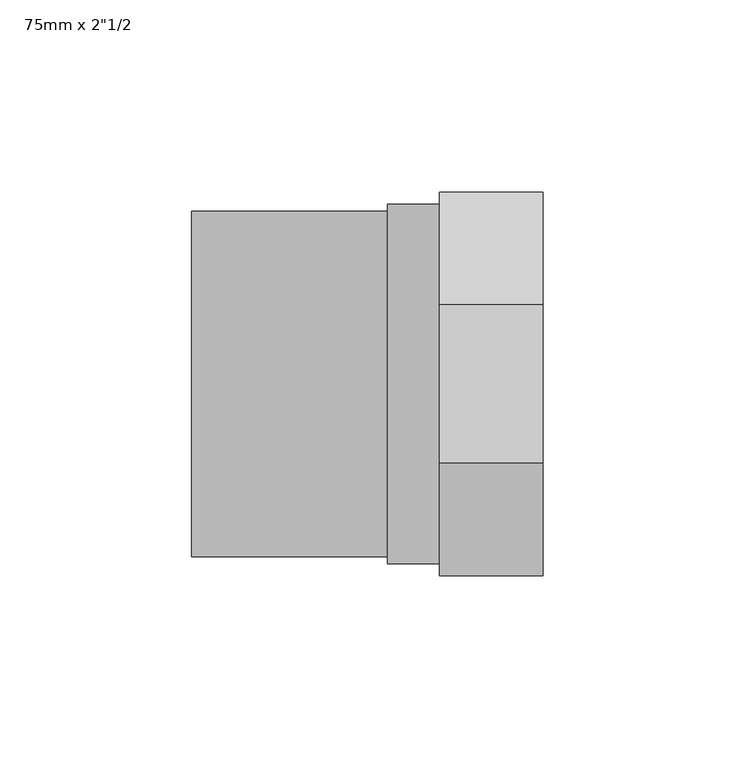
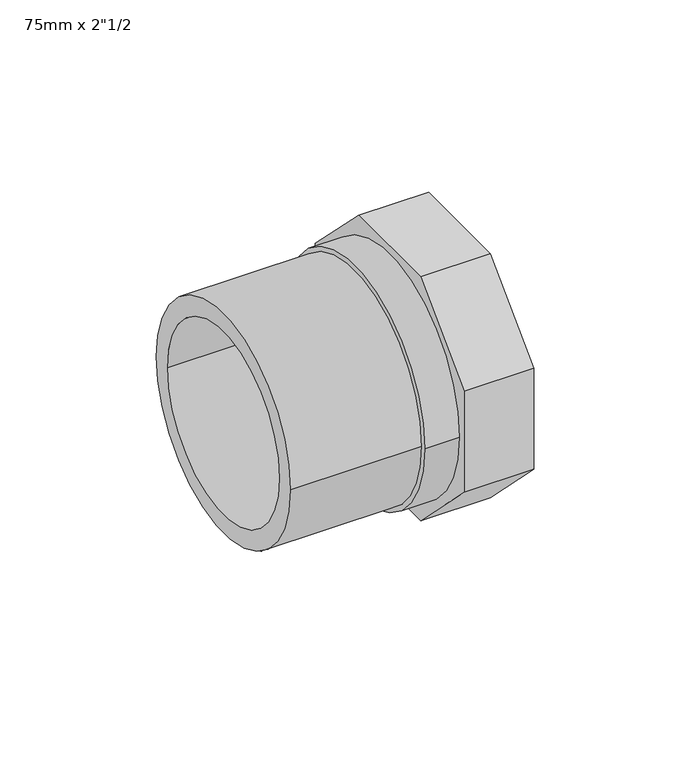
"""IFC4 building model written with IfcOpenShell, lengths in millimetres: pipe fitting geometry."""

import ifcopenshell
import ifcopenshell.guid

model = None  # the IFC model being written
_history = None  # IfcOwnerHistory: only IFC2X3 demands one
_inside = {}  # id of a spatial element -> (the spatial element, [elements in it])
_under = {}  # id of a project, library or spatial element -> (it, [spatial elements below it])
_declared = {}  # id of a project -> (the project, [libraries it declares])
_typed = {}  # id of a type object -> (the type object, [elements of that type])
_made_of = {}  # id of a material, layer set ... -> (it, [elements and type objects made of it])


def new_model(schema):
    """Start an empty IFC model of exactly this schema.

    Asked for "IFC4X3", IfcOpenShell would pick the latest addendum, in which some entities
    have other attributes; the version numbers below select the first issue.
    IFC2X3 requires an IfcOwnerHistory on every rooted entity: one is made here for all.
    """
    global model, _history
    if schema == "IFC4X3":
        model = ifcopenshell.file(schema_version=(4, 3, 0, 0))
    else:
        model = ifcopenshell.file(schema=schema)
    _inside.clear()
    _under.clear()
    _declared.clear()
    _typed.clear()
    _made_of.clear()
    _history = None
    if model.schema == "IFC2X3":
        org = make("IfcOrganization", Name="unknown")
        user = make(
            "IfcPersonAndOrganization",
            ThePerson=make("IfcPerson", FamilyName="unknown"),
            TheOrganization=org,
        )
        app = make(
            "IfcApplication",
            ApplicationDeveloper=org,
            Version="unknown",
            ApplicationFullName="unknown",
            ApplicationIdentifier="unknown",
        )
        _history = make(
            "IfcOwnerHistory",
            OwningUser=user,
            OwningApplication=app,
            ChangeAction="ADDED",
            CreationDate=0,
        )
    return model


def make(cls, **values):
    """One entity of the class cls with the attributes given. An attribute that is None is left unset."""
    return model.create_entity(
        cls, **{name: value for name, value in values.items() if value is not None}
    )


def rooted(cls, **values):
    """An entity with a GlobalId (a new one), such as an element, a storey or a relation."""
    return make(cls, GlobalId=ifcopenshell.guid.new(), OwnerHistory=_history, **values)


def si_unit(unit_type, name, prefix=None):
    """IfcSIUnit, for example si_unit("LENGTHUNIT", "METRE", prefix="MILLI")."""
    return make("IfcSIUnit", UnitType=unit_type, Prefix=prefix, Name=name)


def assignment(units):
    """IfcUnitAssignment: the units of a project."""
    return None if units is None else make("IfcUnitAssignment", Units=units)


def point(xyz):
    """IfcCartesianPoint."""
    return None if xyz is None else make("IfcCartesianPoint", Coordinates=xyz)


def direction(xyz):
    """IfcDirection."""
    return None if xyz is None else make("IfcDirection", DirectionRatios=xyz)


def frame(location, z_axis=None, x_axis=None):
    """IfcAxis2Placement3D, a coordinate frame: its origin and axes. An axis left out is left unset."""
    return make(
        "IfcAxis2Placement3D",
        Location=point(location),
        Axis=direction(z_axis),
        RefDirection=direction(x_axis),
    )


def frame_2d(location, x_axis=None):
    """IfcAxis2Placement2D, a coordinate frame in the plane: its origin and x axis."""
    return make(
        "IfcAxis2Placement2D", Location=point(location), RefDirection=direction(x_axis)
    )


def origin():
    """The frame at (0, 0, 0) with its axes left unset."""
    return frame((0.0, 0.0, 0.0))


def origin_2d():
    """The frame at (0, 0) in the plane with its x axis left unset."""
    return frame_2d((0.0, 0.0))


def place(relative_to, where):
    """IfcLocalPlacement: puts the frame where relative to a parent placement (None: the world)."""
    return make(
        "IfcLocalPlacement", PlacementRelTo=relative_to, RelativePlacement=where
    )


def context(
    kind, dimensions, precision=None, world=None, true_north=None, identifier=None
):
    """IfcGeometricRepresentationContext, for example the 3D "Model" context."""
    return make(
        "IfcGeometricRepresentationContext",
        ContextIdentifier=identifier,
        ContextType=kind,
        CoordinateSpaceDimension=dimensions,
        Precision=precision,
        WorldCoordinateSystem=world,
        TrueNorth=true_north,
    )


def project(units=None, contexts=None):
    """IfcProject with its units and contexts."""
    return rooted(
        "IfcProject",
        Name="project",
        RepresentationContexts=contexts,
        UnitsInContext=assignment(units),
    )


def spatial(cls, under=None, at=None, **own):
    """A site, building, storey or space (cls), placed at a placement, below another one or the project."""
    s = rooted(cls, ObjectPlacement=at, **own)
    if under is not None:
        _under.setdefault(under.id(), (under, []))[1].append(s)
    return s


def polyline(points):
    """IfcPolyline through the points."""
    return make("IfcPolyline", Points=[point(p) for p in points])


def circle_curve(where, radius):
    """IfcCircle in the frame where."""
    return make("IfcCircle", Position=where, Radius=radius)


def trimmed(basis, trim1, trim2, sense, master):
    """IfcTrimmedCurve: the piece of a basis curve between two trims."""
    return make(
        "IfcTrimmedCurve",
        BasisCurve=basis,
        Trim1=trim1,
        Trim2=trim2,
        SenseAgreement=sense,
        MasterRepresentation=master,
    )


def segment(curve, same_sense, transition):
    """IfcCompositeCurveSegment."""
    return make(
        "IfcCompositeCurveSegment",
        Transition=transition,
        SameSense=same_sense,
        ParentCurve=curve,
    )


def composite_curve(segments, self_intersect=None):
    """IfcCompositeCurve: segments joined end to end."""
    return make("IfcCompositeCurve", Segments=segments, SelfIntersect=self_intersect)


def outline(outer, holes=None, kind="AREA"):
    """IfcArbitraryClosedProfileDef: a profile drawn as a closed curve; with holes, ...WithVoids."""
    if holes is None:
        return make("IfcArbitraryClosedProfileDef", ProfileType=kind, OuterCurve=outer)
    return make(
        "IfcArbitraryProfileDefWithVoids",
        ProfileType=kind,
        OuterCurve=outer,
        InnerCurves=holes,
    )


def extrude(swept, where, along, depth):
    """IfcExtrudedAreaSolid: the profile swept, set in the frame where, extruded along a direction by depth."""
    return make(
        "IfcExtrudedAreaSolid",
        SweptArea=swept,
        Position=where,
        ExtrudedDirection=direction(along),
        Depth=depth,
    )


def shape(context_of_items, identifier, shape_type, items):
    """IfcShapeRepresentation: the items that make up one representation, for example the "Body"."""
    return make(
        "IfcShapeRepresentation",
        ContextOfItems=context_of_items,
        RepresentationIdentifier=identifier,
        RepresentationType=shape_type,
        Items=items,
    )


def source(mapping_origin, context_of_items, identifier, shape_type, items):
    """IfcRepresentationMap: a shape defined once, which mapped items show again and again."""
    return make(
        "IfcRepresentationMap",
        MappingOrigin=mapping_origin,
        MappedRepresentation=shape(context_of_items, identifier, shape_type, items),
    )


def transform(
    local_origin,
    x_axis=None,
    y_axis=None,
    z_axis=None,
    scale=None,
    scale2=None,
    scale3=None,
    uniform=True,
):
    """IfcCartesianTransformationOperator3D, or its non-uniform kind. x_axis, y_axis, z_axis: its Axis1, 2, 3."""
    if uniform:
        return make(
            "IfcCartesianTransformationOperator3D",
            Axis1=direction(x_axis),
            Axis2=direction(y_axis),
            LocalOrigin=point(local_origin),
            Scale=scale,
            Axis3=direction(z_axis),
        )
    return make(
        "IfcCartesianTransformationOperator3DnonUniform",
        Axis1=direction(x_axis),
        Axis2=direction(y_axis),
        LocalOrigin=point(local_origin),
        Scale=scale,
        Axis3=direction(z_axis),
        Scale2=scale2,
        Scale3=scale3,
    )


def mapped(mapping_source, mapping_target):
    """IfcMappedItem: shows the shape of a source again, moved by a transform."""
    return make(
        "IfcMappedItem", MappingSource=mapping_source, MappingTarget=mapping_target
    )


def made_of(thing, what):
    """Note that an element or type object is made of a material, layer set ...; save() writes the relation."""
    if what is not None:
        _made_of.setdefault(what.id(), (what, []))[1].append(thing)
    return thing


def element(
    cls,
    number,
    at=None,
    inside=None,
    cuts=None,
    type_object=None,
    material=None,
    context=None,
    identifier="Body",
    shape_type=None,
    held_by="IfcProductDefinitionShape",
    body=None,
    shapes=None,
    **own,
):
    """One element of the class cls, such as IfcWall. Its Tag is "e" and its number.

    at: its placement. inside: the storey or other place that contains it. cuts: it is an
    opening in that element (IfcRelVoidsElement). A single representation is given by context,
    identifier, shape_type and body (its items); several are given by shapes. held_by: the class
    of the entity that holds the representations. save() writes the other relations.
    """
    e = rooted(cls, Tag="e%d" % number, ObjectPlacement=at, **own)
    if body is not None:
        shapes = [shape(context, identifier, shape_type, body)]
    if shapes is not None:
        e.Representation = make(held_by, Representations=shapes)
    if inside is not None:
        _inside.setdefault(inside.id(), (inside, []))[1].append(e)
    if cuts is not None:
        rooted(
            "IfcRelVoidsElement", RelatingBuildingElement=cuts, RelatedOpeningElement=e
        )
    if type_object is not None:
        _typed.setdefault(type_object.id(), (type_object, []))[1].append(e)
    return made_of(e, material)


def aggregate(whole, parts):
    """IfcRelAggregates: a whole, such as a stair, and the parts it consists of."""
    return rooted("IfcRelAggregates", RelatingObject=whole, RelatedObjects=parts)


def save(model, path):
    """Write the relations noted so far, then the file.

    IfcRelAggregates (storeys below a building ...), IfcRelContainedInSpatialStructure (elements
    in a storey), IfcRelDefinesByType, IfcRelAssociatesMaterial and IfcRelDeclares: one each for
    every whole, place, type object, material and project.
    """
    for whole, parts in _under.values():
        aggregate(whole, parts)
    for where, things in _inside.values():
        rooted(
            "IfcRelContainedInSpatialStructure",
            RelatedElements=things,
            RelatingStructure=where,
        )
    for kind, things in _typed.values():
        rooted("IfcRelDefinesByType", RelatedObjects=things, RelatingType=kind)
    for what, things in _made_of.values():
        rooted("IfcRelAssociatesMaterial", RelatedObjects=things, RelatingMaterial=what)
    for by, libraries in _declared.values():
        rooted("IfcRelDeclares", RelatingContext=by, RelatedDefinitions=libraries)
    model.write(path)


def plane_surface(at):
    """IfcPlane: the flat surface through the origin of the frame at, square to its z axis."""
    return make("IfcPlane", Position=at)


def revolved_surface(curve, axis_point, axis_direction):
    """IfcSurfaceOfRevolution: the curve turned about the line through axis_point along axis_direction."""
    return make(
        "IfcSurfaceOfRevolution",
        SweptCurve=make("IfcArbitraryOpenProfileDef", ProfileType="CURVE", Curve=curve),
        AxisPosition=make("IfcAxis1Placement", Location=point(axis_point), Axis=direction(axis_direction)),
    )


def advanced_brep(points, edges, surfaces, faces):
    """IfcAdvancedBrep: a solid bounded by faces that lie on surfaces and meet in shared edges.

    An edge is (start, end): straight between two places in points (the first is 0);
    or (start, end, curve); or (start, end, curve, False) where it runs against its curve.
    A face is (place in surfaces, loops), or (place, loops, False) where it looks against
    its surface's normal. A loop lists edges by number (the first is 1), with a minus sign
    where the edge is run from its end to its start. The first loop is the outer one.
    """
    corners = [point(p) for p in points]
    vertices = [make("IfcVertexPoint", VertexGeometry=c) for c in corners]
    made = []
    for start, end, *more in edges:
        made.append(
            make(
                "IfcEdgeCurve",
                EdgeStart=vertices[start],
                EdgeEnd=vertices[end],
                EdgeGeometry=more[0] if more else make("IfcPolyline", Points=[corners[start], corners[end]]),
                SameSense=more[1] if len(more) > 1 else True,
            )
        )
    hull = []
    for where, loops, *sense in faces:
        bounds = []
        for j, loop in enumerate(loops):
            ring = [make("IfcOrientedEdge", EdgeElement=made[abs(k) - 1], Orientation=k > 0) for k in loop]
            bounds.append(
                make(
                    "IfcFaceOuterBound" if j == 0 else "IfcFaceBound",
                    Bound=make("IfcEdgeLoop", EdgeList=ring),
                    Orientation=True,
                )
            )
        hull.append(make("IfcAdvancedFace", Bounds=bounds, FaceSurface=surfaces[where], SameSense=sense[0] if sense else True))
    return make("IfcAdvancedBrep", Outer=make("IfcClosedShell", CfsFaces=hull))


def pipe_fitting_128ca521(model_context):
    return source(origin(), model_context, "Body", "SolidModel", [
        extrude(outline(composite_curve([segment(trimmed(circle_curve(origin_2d(), 46.75), [point((-46.75, 0.0))], [point((46.75, 0.0))], False, "CARTESIAN"), True, "CONTINUOUS"), segment(trimmed(circle_curve(origin_2d(), 46.75), [point((46.75, 0.0))], [point((-46.75, 0.0))], False, "CARTESIAN"), True, "CONTINUOUS")], self_intersect=False), holes=[composite_curve([segment(trimmed(circle_curve(origin_2d(), 33.0), [point((-33.0, 0.0))], [point((33.0, 0.0))], True, "CARTESIAN"), True, "CONTINUOUS"), segment(trimmed(circle_curve(origin_2d(), 33.0), [point((33.0, 0.0))], [point((-33.0, 0.0))], True, "CARTESIAN"), True, "CONTINUOUS")], self_intersect=False)]), frame((25.5, 0.0, 0.0), z_axis=(1.0, 0.0, 0.0), x_axis=(0.0, 1.0, 0.0)), (0.0, 0.0, 1.0), 13.5),
        advanced_brep(
        [(39.0, 20.7106781, 50.0), (39.0, 50.0, 20.7106781), (39.0, 50.0, -20.7106781), (39.0, 20.7106781, -50.0), (39.0, -20.7106781, -50.0), (39.0, -50.0, -20.7106781), (39.0, -50.0, 20.7106781), (39.0, -20.7106781, 50.0), (39.0, -33.0, 0.0), (39.0, 33.0, 0.0), (66.0, 20.7106781, 50.0), (66.0, -20.7106781, 50.0), (66.0, -50.0, 20.7106781), (66.0, -50.0, -20.7106781), (66.0, -20.7106781, -50.0), (66.0, 20.7106781, -50.0), (66.0, 50.0, -20.7106781), (66.0, 50.0, 20.7106781), (66.0, 37.5, 0.0), (66.0, -37.5, 0.0), (65.8, 37.5, 0.0), (65.8, -37.5, 0.0), (65.8, 33.0, 0.0), (65.8, -33.0, 0.0)],
        [
            (0, 1),
            (1, 2),
            (2, 3),
            (3, 4),
            (4, 5),
            (5, 6),
            (6, 7),
            (7, 0),
            (8, 9, circle_curve(frame((39.0, 0.0, 0.0), z_axis=(1.0, 0.0, 0.0), x_axis=(0.0, -1.0, 0.0)), 33.0)),
            (9, 8, circle_curve(frame((39.0, 0.0, 0.0), z_axis=(1.0, 0.0, 0.0), x_axis=(0.0, -1.0, 0.0)), 33.0)),
            (10, 11),
            (11, 12),
            (12, 13),
            (13, 14),
            (14, 15),
            (15, 16),
            (16, 17),
            (17, 10),
            (18, 19, circle_curve(frame((66.0, 0.0, 0.0), z_axis=(-1.0, 0.0, 0.0), x_axis=(0.0, -1.0, 0.0)), 37.5)),
            (19, 18, circle_curve(frame((66.0, 0.0, 0.0), z_axis=(-1.0, 0.0, 0.0), x_axis=(0.0, -1.0, 0.0)), 37.5)),
            (0, 10),
            (17, 1),
            (16, 2),
            (15, 3),
            (14, 4),
            (13, 5),
            (12, 6),
            (11, 7),
            (20, 21, circle_curve(frame((65.8, 0.0, 0.0), z_axis=(1.0, 0.0, 0.0), x_axis=(0.0, -1.0, 0.0)), 37.5)),
            (21, 20, circle_curve(frame((65.8, 0.0, 0.0), z_axis=(1.0, 0.0, 0.0), x_axis=(0.0, -1.0, 0.0)), 37.5)),
            (22, 23, circle_curve(frame((65.8, 0.0, 0.0), z_axis=(-1.0, 0.0, 0.0), x_axis=(0.0, -1.0, 0.0)), 33.0)),
            (23, 22, circle_curve(frame((65.8, 0.0, 0.0), z_axis=(-1.0, 0.0, 0.0), x_axis=(0.0, -1.0, 0.0)), 33.0)),
            (21, 19),
            (18, 20),
            (22, 9),
            (8, 23),
        ],
        [
            plane_surface(frame((39.0, 0.0, 0.0), z_axis=(-1.0, 0.0, 0.0), x_axis=(0.0, 0.0, 1.0))),
            plane_surface(frame((66.0, 0.0, 0.0), z_axis=(1.0, 0.0, 0.0), x_axis=(0.0, 0.0, 1.0))),
            plane_surface(frame((39.0, 20.7106781, 50.0), z_axis=(0.0, 0.7071067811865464, 0.7071067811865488), x_axis=(1.0, 0.0, 0.0))),
            plane_surface(frame((39.0, 50.0, 20.7106781), z_axis=(0.0, 1.0, 0.0), x_axis=(1.0, 0.0, 0.0))),
            plane_surface(frame((39.0, 50.0, -20.7106781), z_axis=(0.0, 0.7071067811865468, -0.7071067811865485), x_axis=(1.0, 0.0, 0.0))),
            plane_surface(frame((39.0, 20.7106781, -50.0), z_axis=(0.0, 0.0, -1.0), x_axis=(1.0, 0.0, 0.0))),
            plane_surface(frame((39.0, -20.7106781, -50.0), z_axis=(0.0, -0.707106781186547, -0.7071067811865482), x_axis=(1.0, 0.0, 0.0))),
            plane_surface(frame((39.0, -50.0, -20.7106781), z_axis=(0.0, -1.0, 0.0), x_axis=(1.0, 0.0, 0.0))),
            plane_surface(frame((39.0, -50.0, 20.7106781), z_axis=(0.0, -0.7071067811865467, 0.7071067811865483), x_axis=(1.0, 0.0, 0.0))),
            plane_surface(frame((39.0, -20.7106781, 50.0), z_axis=(0.0, 0.0, 1.0), x_axis=(1.0, 0.0, 0.0))),
            plane_surface(frame((65.8, -37.5, 0.0), z_axis=(1.0, 0.0, 0.0), x_axis=(0.0, 0.0, 1.0))),
            revolved_surface(polyline([(65.8, -37.5, 0.0), (66.0, -37.5, 0.0)]), (66.0, 0.0, 0.0), (-1.0, 0.0, 0.0)),
            revolved_surface(polyline([(39.0, -33.0, 0.0), (65.8, -33.0, 0.0)]), (66.0, 0.0, 0.0), (-1.0, 0.0, 0.0)),
        ],
        [
            (0, [[1, 2, 3, 4, 5, 6, 7, 8], [9, 10]]),
            (1, [[11, 12, 13, 14, 15, 16, 17, 18], [19, 20]]),
            (2, [[-1, 21, -18, 22]]),
            (3, [[-2, -22, -17, 23]]),
            (4, [[-3, -23, -16, 24]]),
            (5, [[-4, -24, -15, 25]]),
            (6, [[-5, -25, -14, 26]]),
            (7, [[-6, -26, -13, 27]]),
            (8, [[-7, -27, -12, 28]]),
            (9, [[-8, -28, -11, -21]]),
            (10, [[29, 30], [31, 32]]),
            (11, [[-30, 33, -19, 34]]),
            (11, [[-29, -34, -20, -33]]),
            (12, [[35, -9, 36, -31]]),
            (12, [[-35, -32, -36, -10]]),
        ],
    ),
        extrude(outline(composite_curve([segment(trimmed(circle_curve(origin_2d(), 45.0), [point((-45.0, 0.0))], [point((45.0, 0.0))], False, "CARTESIAN"), True, "CONTINUOUS"), segment(trimmed(circle_curve(origin_2d(), 45.0), [point((45.0, 0.0))], [point((-45.0, 0.0))], False, "CARTESIAN"), True, "CONTINUOUS")], self_intersect=False), holes=[composite_curve([segment(trimmed(circle_curve(origin_2d(), 37.5), [point((-37.5, 0.0))], [point((37.5, 0.0))], True, "CARTESIAN"), True, "CONTINUOUS"), segment(trimmed(circle_curve(origin_2d(), 37.5), [point((37.5, 0.0))], [point((-37.5, 0.0))], True, "CARTESIAN"), True, "CONTINUOUS")], self_intersect=False)]), frame((-25.5, 0.0, 0.0), z_axis=(1.0, 0.0, 0.0), x_axis=(0.0, 1.0, 0.0)), (0.0, 0.0, 1.0), 51.0),
    ])


if __name__ == "__main__":
    model = new_model("IFC4")
    model_context = context("Model", 3, world=origin())
    ifc_project = project(units=[si_unit("LENGTHUNIT", "METRE", prefix="MILLI")], contexts=[model_context])
    site = spatial("IfcSite", under=ifc_project)
    building = spatial("IfcBuilding", under=site)
    placement = place(None, origin())
    pipe_fitting_shape = pipe_fitting_128ca521(model_context)
    element("IfcPipeFitting", 1, ObjectType="PipeFitting_HTA_CPVC_ThreadedAdaptors : 75mm x 2\"1/2", at=placement, inside=building, context=model_context, shape_type="MappedRepresentation", body=[
        mapped(pipe_fitting_shape, transform((0.0, 0.0, 0.0), x_axis=(1.0, 0.0, 0.0), y_axis=(0.0, 1.0, 0.0), z_axis=(0.0, 0.0, 1.0))),
    ])
    save(model, "model.ifc")
